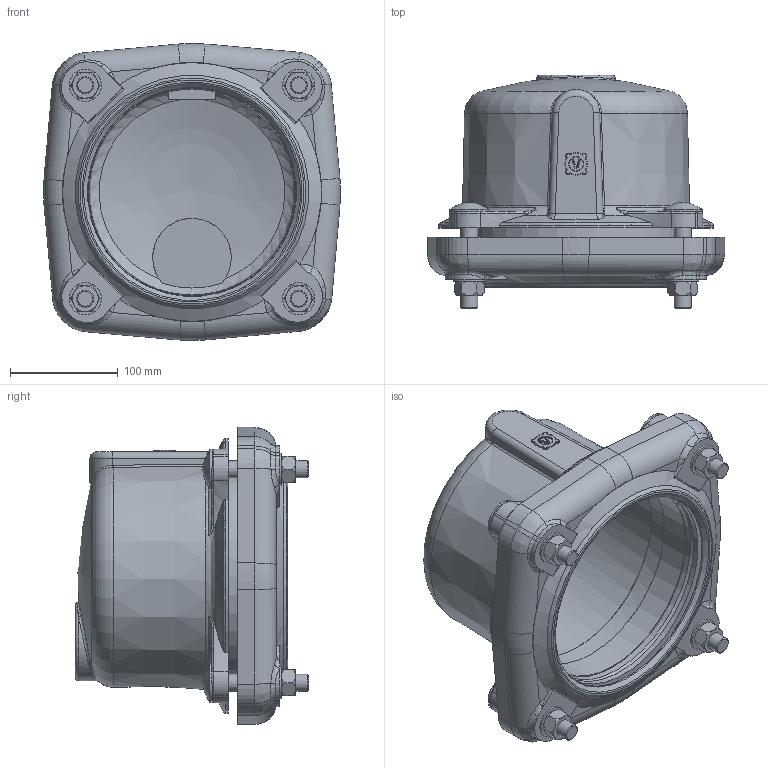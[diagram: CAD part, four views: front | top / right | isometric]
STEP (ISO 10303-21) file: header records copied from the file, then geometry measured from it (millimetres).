
FILE_DESCRIPTION((''),'2;1');
FILE_NAME('P:\Fastrack\54361_VIKING JOHNSON 3D\ULTRAGRIP\Component Parts\Components Built up\End-Cap\150MM-UltraGrip-End-Cap.stp','2012-04-23T10:33:30',('dcole'),(''),'Autodesk Inventor 2008','Autodesk Inventor 2008','');
FILE_SCHEMA(('AUTOMOTIVE_DESIGN { 1 0 10303 214 1 1 1 1 }'));
Length unit declared in the file: millimetre
Products named in the file (1): 150MM-UltraGrip-End-Cap
Bounding box: 276.22 x 217.2 x 276.22 mm (x, y, z)
Volume: 1746401 mm3; surface area: 500043.3 mm2
Topology: 1 solids, 1 shells, 752 faces, 1987 edges, 1266 vertices
Faces by surface type: plane 346, cylinder 176, bspline 116, cone 65, torus 48, sphere 1
Full cylindrical faces by diameter (mm): 9 x1, 13 x1, 15.8 x8, 16 x4, 30 x4, 36 x4, 191.7 x1, 193.7 x3, 201 x1, 240.976 x1
Entity records: 44216 total; most frequent: CARTESIAN_POINT 25827, ORIENTED_EDGE 3830, DIRECTION 3377, EDGE_CURVE 1915, VERTEX_POINT 1249, AXIS2_PLACEMENT_3D 1244, VECTOR 889, LINE 889
